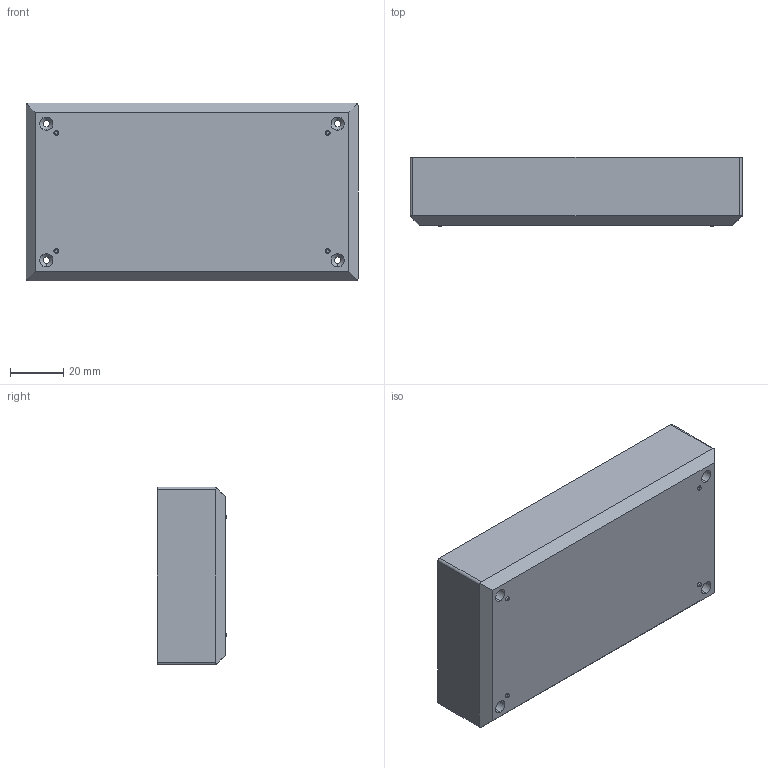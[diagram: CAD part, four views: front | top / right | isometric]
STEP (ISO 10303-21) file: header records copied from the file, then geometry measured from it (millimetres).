
FILE_DESCRIPTION (( 'STEP AP214' ), '1' );
FILE_NAME ('Cuerpo PP77B.STEP', '2018-01-05T11:15:01', ( 'aaa' ), ( '' ), 'SwSTEP 2.0', 'SolidWorks 2013', '' );
FILE_SCHEMA (( 'AUTOMOTIVE_DESIGN' ));
Length unit declared in the file: millimetre
Products named in the file (1): Cuerpo PP77B
Bounding box: 125 x 26.03 x 67 mm (x, y, z)
Volume: 57022.8 mm3; surface area: 39237.3 mm2
Topology: 1 solids, 1 shells, 168 faces, 421 edges, 274 vertices
Faces by surface type: plane 83, cylinder 69, cone 16
Entity records: 5085 total; most frequent: CARTESIAN_POINT 936, DIRECTION 885, ORIENTED_EDGE 842, EDGE_CURVE 421, AXIS2_PLACEMENT_3D 319, VERTEX_POINT 274, LINE 247, VECTOR 247
